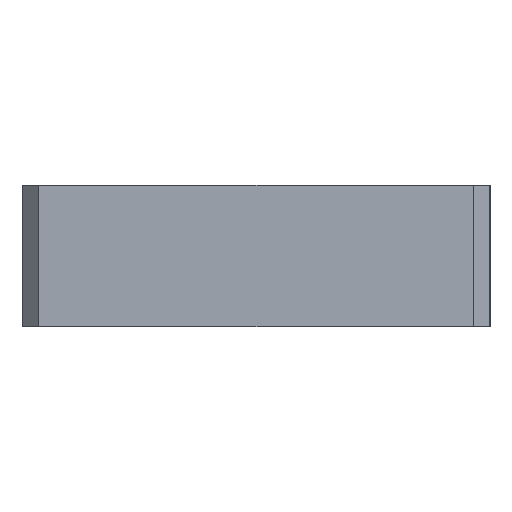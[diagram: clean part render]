
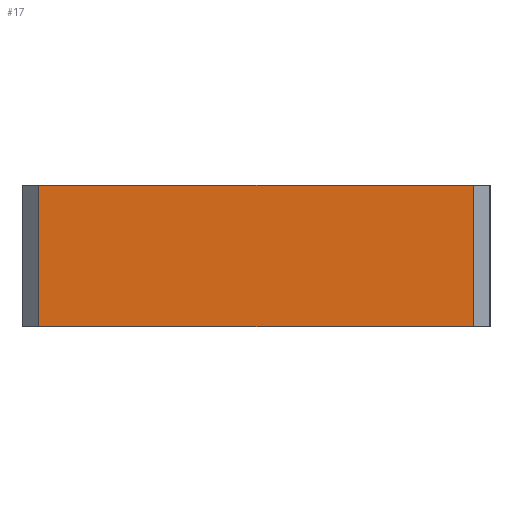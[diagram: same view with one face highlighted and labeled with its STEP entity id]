
A CAD part, left-side view. The second image highlights one B-rep face of the part: STEP entity #17.
In plain terms, the highlighted planar face has unit normal (-1, 0, 0).
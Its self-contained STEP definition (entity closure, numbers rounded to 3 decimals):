
#17 = ADVANCED_FACE('',(#18),#32,.F.);
#18 = FACE_BOUND('',#19,.F.);
#19 = EDGE_LOOP('',(#20,#55,#83,#111));
#20 = ORIENTED_EDGE('',*,*,#21,.F.);
#21 = EDGE_CURVE('',#22,#24,#26,.T.);
#22 = VERTEX_POINT('',#23);
#23 = CARTESIAN_POINT('',(-35.46,-19.755,6.44));
#24 = VERTEX_POINT('',#25);
#25 = CARTESIAN_POINT('',(-35.46,19.755,6.44));
#26 = SURFACE_CURVE('',#27,(#31,#43),.PCURVE_S1.);
#27 = LINE('',#28,#29);
#28 = CARTESIAN_POINT('',(-35.46,-21.275,6.44));
#29 = VECTOR('',#30,1.);
#30 = DIRECTION('',(0.,1.,0.));
#31 = PCURVE('',#32,#37);
#32 = PLANE('',#33);
#33 = AXIS2_PLACEMENT_3D('',#34,#35,#36);
#34 = CARTESIAN_POINT('',(-35.46,-21.275,-6.44));
#35 = DIRECTION('',(1.,0.,0.));
#36 = DIRECTION('',(0.,0.,1.));
#37 = DEFINITIONAL_REPRESENTATION('',(#38),#42);
#38 = LINE('',#39,#40);
#39 = CARTESIAN_POINT('',(12.88,0.));
#40 = VECTOR('',#41,1.);
#41 = DIRECTION('',(0.,-1.));
#42 = ( GEOMETRIC_REPRESENTATION_CONTEXT(2) 
PARAMETRIC_REPRESENTATION_CONTEXT() REPRESENTATION_CONTEXT('2D SPACE',''
  ) );
#43 = PCURVE('',#44,#49);
#44 = PLANE('',#45);
#45 = AXIS2_PLACEMENT_3D('',#46,#47,#48);
#46 = CARTESIAN_POINT('',(-35.46,-21.275,6.44));
#47 = DIRECTION('',(0.,0.,1.));
#48 = DIRECTION('',(1.,0.,0.));
#49 = DEFINITIONAL_REPRESENTATION('',(#50),#54);
#50 = LINE('',#51,#52);
#51 = CARTESIAN_POINT('',(0.,0.));
#52 = VECTOR('',#53,1.);
#53 = DIRECTION('',(0.,1.));
#54 = ( GEOMETRIC_REPRESENTATION_CONTEXT(2) 
PARAMETRIC_REPRESENTATION_CONTEXT() REPRESENTATION_CONTEXT('2D SPACE',''
  ) );
#55 = ORIENTED_EDGE('',*,*,#56,.F.);
#56 = EDGE_CURVE('',#57,#22,#59,.T.);
#57 = VERTEX_POINT('',#58);
#58 = CARTESIAN_POINT('',(-35.46,-19.755,-6.44));
#59 = SURFACE_CURVE('',#60,(#64,#71),.PCURVE_S1.);
#60 = LINE('',#61,#62);
#61 = CARTESIAN_POINT('',(-35.46,-19.755,-6.44));
#62 = VECTOR('',#63,1.);
#63 = DIRECTION('',(0.,0.,1.));
#64 = PCURVE('',#32,#65);
#65 = DEFINITIONAL_REPRESENTATION('',(#66),#70);
#66 = LINE('',#67,#68);
#67 = CARTESIAN_POINT('',(0.,-1.52));
#68 = VECTOR('',#69,1.);
#69 = DIRECTION('',(1.,0.));
#70 = ( GEOMETRIC_REPRESENTATION_CONTEXT(2) 
PARAMETRIC_REPRESENTATION_CONTEXT() REPRESENTATION_CONTEXT('2D SPACE',''
  ) );
#71 = PCURVE('',#72,#77);
#72 = PLANE('',#73);
#73 = AXIS2_PLACEMENT_3D('',#74,#75,#76);
#74 = CARTESIAN_POINT('',(-34.7,-20.515,-6.44));
#75 = DIRECTION('',(-0.707,-0.707,0.)
  );
#76 = DIRECTION('',(0.,0.,-1.));
#77 = DEFINITIONAL_REPRESENTATION('',(#78),#82);
#78 = LINE('',#79,#80);
#79 = CARTESIAN_POINT('',(-0.,-1.075));
#80 = VECTOR('',#81,1.);
#81 = DIRECTION('',(-1.,0.));
#82 = ( GEOMETRIC_REPRESENTATION_CONTEXT(2) 
PARAMETRIC_REPRESENTATION_CONTEXT() REPRESENTATION_CONTEXT('2D SPACE',''
  ) );
#83 = ORIENTED_EDGE('',*,*,#84,.T.);
#84 = EDGE_CURVE('',#57,#85,#87,.T.);
#85 = VERTEX_POINT('',#86);
#86 = CARTESIAN_POINT('',(-35.46,19.755,-6.44));
#87 = SURFACE_CURVE('',#88,(#92,#99),.PCURVE_S1.);
#88 = LINE('',#89,#90);
#89 = CARTESIAN_POINT('',(-35.46,-21.275,-6.44));
#90 = VECTOR('',#91,1.);
#91 = DIRECTION('',(0.,1.,0.));
#92 = PCURVE('',#32,#93);
#93 = DEFINITIONAL_REPRESENTATION('',(#94),#98);
#94 = LINE('',#95,#96);
#95 = CARTESIAN_POINT('',(0.,0.));
#96 = VECTOR('',#97,1.);
#97 = DIRECTION('',(0.,-1.));
#98 = ( GEOMETRIC_REPRESENTATION_CONTEXT(2) 
PARAMETRIC_REPRESENTATION_CONTEXT() REPRESENTATION_CONTEXT('2D SPACE',''
  ) );
#99 = PCURVE('',#100,#105);
#100 = PLANE('',#101);
#101 = AXIS2_PLACEMENT_3D('',#102,#103,#104);
#102 = CARTESIAN_POINT('',(-35.46,-21.275,-6.44));
#103 = DIRECTION('',(0.,0.,1.));
#104 = DIRECTION('',(1.,0.,0.));
#105 = DEFINITIONAL_REPRESENTATION('',(#106),#110);
#106 = LINE('',#107,#108);
#107 = CARTESIAN_POINT('',(0.,0.));
#108 = VECTOR('',#109,1.);
#109 = DIRECTION('',(0.,1.));
#110 = ( GEOMETRIC_REPRESENTATION_CONTEXT(2) 
PARAMETRIC_REPRESENTATION_CONTEXT() REPRESENTATION_CONTEXT('2D SPACE',''
  ) );
#111 = ORIENTED_EDGE('',*,*,#112,.T.);
#112 = EDGE_CURVE('',#85,#24,#113,.T.);
#113 = SURFACE_CURVE('',#114,(#118,#125),.PCURVE_S1.);
#114 = LINE('',#115,#116);
#115 = CARTESIAN_POINT('',(-35.46,19.755,-6.44));
#116 = VECTOR('',#117,1.);
#117 = DIRECTION('',(0.,0.,1.));
#118 = PCURVE('',#32,#119);
#119 = DEFINITIONAL_REPRESENTATION('',(#120),#124);
#120 = LINE('',#121,#122);
#121 = CARTESIAN_POINT('',(0.,-41.03));
#122 = VECTOR('',#123,1.);
#123 = DIRECTION('',(1.,0.));
#124 = ( GEOMETRIC_REPRESENTATION_CONTEXT(2) 
PARAMETRIC_REPRESENTATION_CONTEXT() REPRESENTATION_CONTEXT('2D SPACE',''
  ) );
#125 = PCURVE('',#126,#131);
#126 = PLANE('',#127);
#127 = AXIS2_PLACEMENT_3D('',#128,#129,#130);
#128 = CARTESIAN_POINT('',(-34.7,20.515,-6.44));
#129 = DIRECTION('',(0.707,-0.707,0.)
  );
#130 = DIRECTION('',(0.,0.,-1.));
#131 = DEFINITIONAL_REPRESENTATION('',(#132),#136);
#132 = LINE('',#133,#134);
#133 = CARTESIAN_POINT('',(-0.,-1.075));
#134 = VECTOR('',#135,1.);
#135 = DIRECTION('',(-1.,0.));
#136 = ( GEOMETRIC_REPRESENTATION_CONTEXT(2) 
PARAMETRIC_REPRESENTATION_CONTEXT() REPRESENTATION_CONTEXT('2D SPACE',''
  ) );
